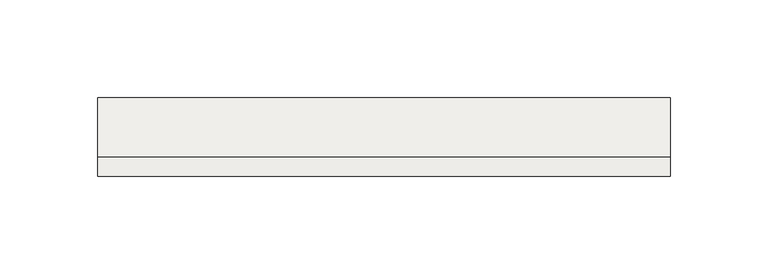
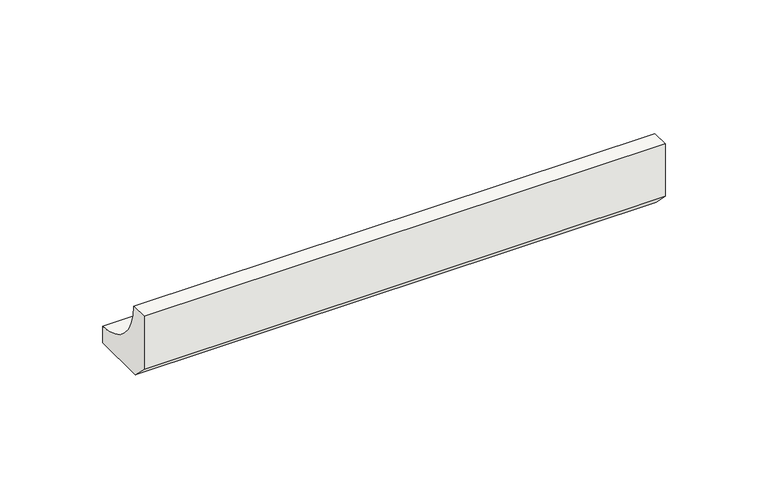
"""IFC4 building model written with IfcOpenShell, lengths in millimetres: slab geometry, ROSA GRES_188 : Pieza 188_Serena_Ocra_Anti-Slip."""

from ifc_helpers import new_model, si_unit, point, frame, frame_2d, origin, place, context, project, spatial, polyline, circle_curve, trimmed, segment, composite_curve, outline, extrude, source, transform, mapped, element, save


def slab_e89b6309(model_context):
    return source(origin(), model_context, "Body", "SweptSolid", [
        extrude(outline(composite_curve([segment(polyline([(0.0, 8.7114978), (0.0, 40.0), (9.9734114, 40.0)]), True, "CONTINUOUS"), segment(trimmed(circle_curve(frame_2d((39.9955547, 39.9955547)), 30.0221435), [point((9.9734114, 40.0))], [point((40.0, 9.9734114))], True, "CARTESIAN"), True, "CONTINUOUS"), segment(polyline([(40.0, 9.9734114), (40.0, 0.0), (8.7114978, 0.0), (0.0, 8.7114978)]), True, "CONTINUOUS")], self_intersect=False)), frame((0.0, 0.0, 0.0), z_axis=(1.0, 0.0, 0.0), x_axis=(0.0, 1.0, 0.0)), (0.0, 0.0, 1.0), 292.5191718),
    ])


if __name__ == "__main__":
    model = new_model("IFC4")
    model_context = context("Model", 3, world=origin())
    ifc_project = project(units=[si_unit("LENGTHUNIT", "METRE", prefix="MILLI")], contexts=[model_context])
    site = spatial("IfcSite", under=ifc_project)
    building = spatial("IfcBuilding", under=site)
    placement = place(None, origin())
    slab_shape = slab_e89b6309(model_context)
    element("IfcSlab", 1, ObjectType="ROSA GRES_188 : Pieza 188_Serena_Ocra_Anti-Slip", at=placement, inside=building, context=model_context, shape_type="MappedRepresentation", body=[
        mapped(slab_shape, transform((0.0, 0.0, 0.0), x_axis=(1.0, 0.0, 0.0), y_axis=(0.0, 1.0, 0.0), z_axis=(0.0, 0.0, 1.0))),
    ])
    save(model, "model.ifc")
